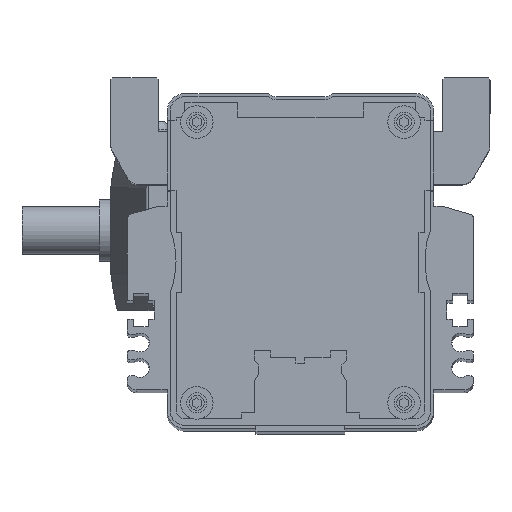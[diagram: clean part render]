
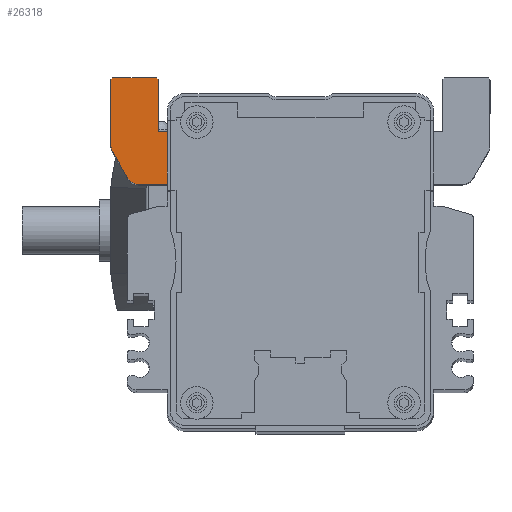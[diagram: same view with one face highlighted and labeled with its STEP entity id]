
A CAD part, top view. The second image highlights one B-rep face of the part: STEP entity #26318.
In plain terms, the highlighted planar face has unit normal (0, 0, 1).
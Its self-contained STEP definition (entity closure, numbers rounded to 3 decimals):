
#18304 = AXIS2_PLACEMENT_3D ( 'NONE', #18353, #18352, #18338 ) ;
#18321 = CARTESIAN_POINT ( 'NONE',  ( -24., 16.5, 89. ) ) ;
#18324 = CARTESIAN_POINT ( 'NONE',  ( -24., 26., 89. ) ) ;
#18329 = LINE ( 'NONE', #18324, #18365 ) ;
#18337 = CARTESIAN_POINT ( 'NONE',  ( -32., 25.2, 89. ) ) ;
#18338 = DIRECTION ( 'NONE',  ( -1., 0., 0. ) ) ;
#18341 = PLANE ( 'NONE',  #18304 ) ;
#18342 = DIRECTION ( 'NONE',  ( -1., 0., 0. ) ) ;
#18343 = DIRECTION ( 'NONE',  ( 0., 0., 1. ) ) ;
#18344 = CARTESIAN_POINT ( 'NONE',  ( -30., 14.036, 89. ) ) ;
#18345 = AXIS2_PLACEMENT_3D ( 'NONE', #18344, #18343, #18342 ) ;
#18347 = CARTESIAN_POINT ( 'NONE',  ( -31.732, 13.036, 89. ) ) ;
#18348 = CARTESIAN_POINT ( 'NONE',  ( -1.5, -12., 89. ) ) ;
#18352 = DIRECTION ( 'NONE',  ( 0., 0., -1. ) ) ;
#18353 = CARTESIAN_POINT ( 'NONE',  ( 18., 7.5, 89. ) ) ;
#18354 = FACE_OUTER_BOUND ( 'NONE', #26388, .T. ) ;
#18355 = DIRECTION ( 'NONE',  ( 0., 1., 0. ) ) ;
#18356 = VECTOR ( 'NONE', #18355, 1000. ) ;
#18357 = CARTESIAN_POINT ( 'NONE',  ( -32., 13.5, 89. ) ) ;
#18358 = LINE ( 'NONE', #18357, #18356 ) ;
#18363 = CIRCLE ( 'NONE', #18345, 2. ) ;
#18364 = DIRECTION ( 'NONE',  ( 0., -1., 0. ) ) ;
#18365 = VECTOR ( 'NONE', #18364, 1000. ) ;
#18366 = LINE ( 'NONE', #18369, #18435 ) ;
#18368 = DIRECTION ( 'NONE',  ( 1., 0., 0. ) ) ;
#18369 = CARTESIAN_POINT ( 'NONE',  ( -24., 16.5, 89. ) ) ;
#18375 = CARTESIAN_POINT ( 'NONE',  ( -29.113, 8.5, 89. ) ) ;
#18385 = CARTESIAN_POINT ( 'NONE',  ( -19., 5.5, 89. ) ) ;
#18400 = DIRECTION ( 'NONE',  ( 0.707, -0.707, 0. ) ) ;
#18401 = VECTOR ( 'NONE', #18400, 1000. ) ;
#18402 = LINE ( 'NONE', #18348, #18401 ) ;
#18404 = VECTOR ( 'NONE', #18463, 1000. ) ;
#18405 = LINE ( 'NONE', #18417, #18404 ) ;
#18407 = CARTESIAN_POINT ( 'NONE',  ( -31.7, 25.5, 89. ) ) ;
#18408 = VECTOR ( 'NONE', #18433, 1000. ) ;
#18409 = CARTESIAN_POINT ( 'NONE',  ( -24.3, 25.5, 89. ) ) ;
#18414 = CARTESIAN_POINT ( 'NONE',  ( -24., 25.2, 89. ) ) ;
#18415 = LINE ( 'NONE', #18414, #18408 ) ;
#18416 = CARTESIAN_POINT ( 'NONE',  ( -32., 14.036, 89. ) ) ;
#18417 = CARTESIAN_POINT ( 'NONE',  ( -31.2, 26., 89. ) ) ;
#18433 = DIRECTION ( 'NONE',  ( -0.707, 0.707, 0. ) ) ;
#18435 = VECTOR ( 'NONE', #18368, 1000. ) ;
#18458 = CARTESIAN_POINT ( 'NONE',  ( -21., 7.5, 89. ) ) ;
#18463 = DIRECTION ( 'NONE',  ( -0.707, -0.707, 0. ) ) ;
#18466 = CARTESIAN_POINT ( 'NONE',  ( -27.381, 7.5, 89. ) ) ;
#18467 = DIRECTION ( 'NONE',  ( 0., -1., 0. ) ) ;
#18468 = VECTOR ( 'NONE', #18467, 1000. ) ;
#18469 = CARTESIAN_POINT ( 'NONE',  ( -19., 16.5, 89. ) ) ;
#18470 = LINE ( 'NONE', #18469, #18468 ) ;
#18476 = DIRECTION ( 'NONE',  ( -0.5, 0.866, 0. ) ) ;
#18477 = VECTOR ( 'NONE', #18476, 1000. ) ;
#18478 = CARTESIAN_POINT ( 'NONE',  ( -32., 13.5, 89. ) ) ;
#18479 = LINE ( 'NONE', #18478, #18477 ) ;
#18487 = CARTESIAN_POINT ( 'NONE',  ( -19., 16.5, 89. ) ) ;
#18500 = CARTESIAN_POINT ( 'NONE',  ( -24., 25.2, 89. ) ) ;
#18504 = CIRCLE ( 'NONE', #18549, 2. ) ;
#18518 = DIRECTION ( 'NONE',  ( 1., 0., 0. ) ) ;
#18519 = VECTOR ( 'NONE', #18518, 1000. ) ;
#18520 = CARTESIAN_POINT ( 'NONE',  ( 32., 25.5, 89. ) ) ;
#18524 = LINE ( 'NONE', #18520, #18519 ) ;
#18539 = DIRECTION ( 'NONE',  ( -1., 0., 0. ) ) ;
#18540 = VECTOR ( 'NONE', #18539, 1000. ) ;
#18541 = CARTESIAN_POINT ( 'NONE',  ( -28.536, 7.5, 89. ) ) ;
#18546 = DIRECTION ( 'NONE',  ( -1., 0., 0. ) ) ;
#18547 = DIRECTION ( 'NONE',  ( 0., 0., 1. ) ) ;
#18548 = CARTESIAN_POINT ( 'NONE',  ( -27.381, 9.5, 89. ) ) ;
#18549 = AXIS2_PLACEMENT_3D ( 'NONE', #18548, #18547, #18546 ) ;
#18550 = LINE ( 'NONE', #18541, #18540 ) ;
#26306 = EDGE_CURVE ( 'NONE', #26426, #26307, #18329, .T. ) ;
#26307 = VERTEX_POINT ( 'NONE', #18321 ) ;
#26310 = ORIENTED_EDGE ( 'NONE', *, *, #26362, .T. ) ;
#26311 = EDGE_CURVE ( 'NONE', #26355, #26319, #18358, .T. ) ;
#26313 = ORIENTED_EDGE ( 'NONE', *, *, #26427, .T. ) ;
#26315 = EDGE_CURVE ( 'NONE', #26355, #26316, #18363, .T. ) ;
#26316 = VERTEX_POINT ( 'NONE', #18347 ) ;
#26318 = ADVANCED_FACE ( 'NONE', ( #18354 ), #18341, .F. ) ;
#26319 = VERTEX_POINT ( 'NONE', #18337 ) ;
#26320 = EDGE_CURVE ( 'NONE', #26401, #26341, #18402, .T. ) ;
#26337 = VERTEX_POINT ( 'NONE', #18375 ) ;
#26341 = VERTEX_POINT ( 'NONE', #18385 ) ;
#26342 = EDGE_CURVE ( 'NONE', #26307, #26395, #18366, .T. ) ;
#26343 = ORIENTED_EDGE ( 'NONE', *, *, #26411, .F. ) ;
#26351 = ORIENTED_EDGE ( 'NONE', *, *, #26353, .T. ) ;
#26353 = EDGE_CURVE ( 'NONE', #26426, #26357, #18415, .T. ) ;
#26355 = VERTEX_POINT ( 'NONE', #18416 ) ;
#26357 = VERTEX_POINT ( 'NONE', #18409 ) ;
#26358 = VERTEX_POINT ( 'NONE', #18407 ) ;
#26360 = ORIENTED_EDGE ( 'NONE', *, *, #26315, .T. ) ;
#26361 = ORIENTED_EDGE ( 'NONE', *, *, #26311, .F. ) ;
#26362 = EDGE_CURVE ( 'NONE', #26358, #26319, #18405, .T. ) ;
#26385 = ORIENTED_EDGE ( 'NONE', *, *, #26400, .F. ) ;
#26388 = EDGE_LOOP ( 'NONE', ( #26399, #26385, #26396, #26398, #26351, #26343, #26310, #26361, #26360, #26393, #26313, #26407 ) ) ;
#26390 = EDGE_CURVE ( 'NONE', #26337, #26316, #18479, .T. ) ;
#26393 = ORIENTED_EDGE ( 'NONE', *, *, #26390, .F. ) ;
#26395 = VERTEX_POINT ( 'NONE', #18487 ) ;
#26396 = ORIENTED_EDGE ( 'NONE', *, *, #26342, .F. ) ;
#26398 = ORIENTED_EDGE ( 'NONE', *, *, #26306, .F. ) ;
#26399 = ORIENTED_EDGE ( 'NONE', *, *, #26320, .T. ) ;
#26400 = EDGE_CURVE ( 'NONE', #26395, #26341, #18470, .T. ) ;
#26401 = VERTEX_POINT ( 'NONE', #18458 ) ;
#26405 = VERTEX_POINT ( 'NONE', #18466 ) ;
#26407 = ORIENTED_EDGE ( 'NONE', *, *, #26429, .F. ) ;
#26411 = EDGE_CURVE ( 'NONE', #26358, #26357, #18524, .T. ) ;
#26426 = VERTEX_POINT ( 'NONE', #18500 ) ;
#26427 = EDGE_CURVE ( 'NONE', #26337, #26405, #18504, .T. ) ;
#26429 = EDGE_CURVE ( 'NONE', #26401, #26405, #18550, .T. ) ;
